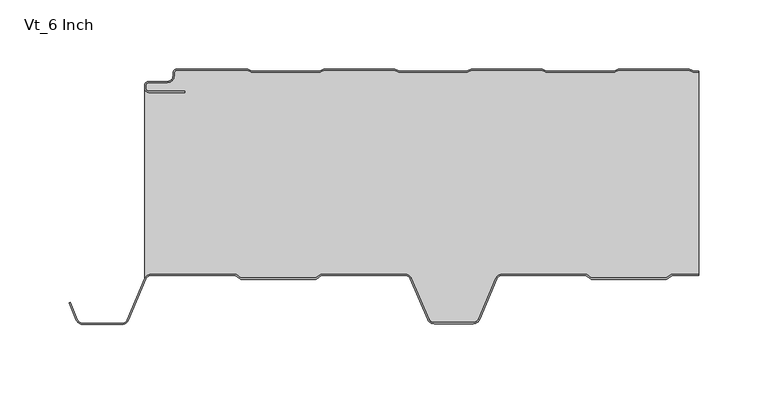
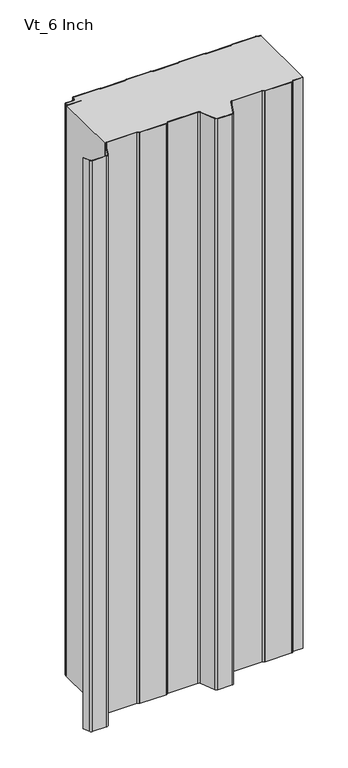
"""IFC4 building model written with IfcOpenShell, lengths in millimetres: plate geometry, AWIP_R18_CP_HR5_Vt_Roof Panel : Vt_6 Inch."""

from ifc_helpers import new_model, si_unit, point, frame, frame_2d, origin, origin_with_axes, place, context, project, spatial, polyline, circle_curve, trimmed, segment, composite_curve, outline, extrude, source, transform, mapped, element, save


def vt_6_inch_4dd7e068(model_context):
    return source(origin(), model_context, "Body", "SweptSolid", [
        extrude(outline(composite_curve([segment(polyline([(212.4037368, -1.5), (215.9042607, -1.5), (215.9042607, -2.3), (212.4037368, -2.3)]), True, "CONTINUOUS"), segment(trimmed(circle_curve(frame_2d((212.4037368, 1.0)), 3.3), [point((212.4037368, -2.3))], [point((211.0949824, -2.0293831))], False, "CARTESIAN"), True, "CONTINUOUS"), segment(polyline([(211.0949824, -2.0293831), (208.7048832, -0.9968123)]), True, "CONTINUOUS"), segment(trimmed(circle_curve(frame_2d((207.7530619, -3.2)), 2.4), [point((208.7048832, -0.9968123))], [point((207.7530619, -0.8))], True, "CARTESIAN"), True, "CONTINUOUS"), segment(polyline([(207.7530619, -0.8), (158.8384168, -0.8)]), True, "CONTINUOUS"), segment(trimmed(circle_curve(frame_2d((158.8384168, -3.2)), 2.4), [point((158.8384168, -0.8))], [point((157.8865954, -0.9968123))], True, "CARTESIAN"), True, "CONTINUOUS"), segment(polyline([(157.8865954, -0.9968123), (155.4964962, -2.0293831)]), True, "CONTINUOUS"), segment(trimmed(circle_curve(frame_2d((154.1877419, 1.0)), 3.3), [point((155.4964962, -2.0293831))], [point((154.1877419, -2.3))], False, "CARTESIAN"), True, "CONTINUOUS"), segment(polyline([(154.1877419, -2.3), (105.8037368, -2.3)]), True, "CONTINUOUS"), segment(trimmed(circle_curve(frame_2d((105.8037368, 1.0)), 3.3), [point((105.8037368, -2.3))], [point((104.4949824, -2.0293831))], False, "CARTESIAN"), True, "CONTINUOUS"), segment(polyline([(104.4949824, -2.0293831), (102.1048832, -0.9968123)]), True, "CONTINUOUS"), segment(trimmed(circle_curve(frame_2d((101.1530619, -3.2)), 2.4), [point((102.1048832, -0.9968123))], [point((101.1530619, -0.8))], True, "CARTESIAN"), True, "CONTINUOUS"), segment(polyline([(101.1530619, -0.8), (52.2384168, -0.8)]), True, "CONTINUOUS"), segment(trimmed(circle_curve(frame_2d((52.2384168, -3.2)), 2.4), [point((52.2384168, -0.8))], [point((51.2865954, -0.9968123))], True, "CARTESIAN"), True, "CONTINUOUS"), segment(polyline([(51.2865954, -0.9968123), (48.8964962, -2.0293831)]), True, "CONTINUOUS"), segment(trimmed(circle_curve(frame_2d((47.5877419, 1.0)), 3.3), [point((48.8964962, -2.0293831))], [point((47.5877419, -2.3))], False, "CARTESIAN"), True, "CONTINUOUS"), segment(polyline([(47.5877419, -2.3), (-0.7962632, -2.3)]), True, "CONTINUOUS"), segment(trimmed(circle_curve(frame_2d((-0.7962632, 1.0)), 3.3), [point((-0.7962632, -2.3))], [point((-2.1050176, -2.0293831))], False, "CARTESIAN"), True, "CONTINUOUS"), segment(polyline([(-2.1050176, -2.0293831), (-4.4951168, -0.9968123)]), True, "CONTINUOUS"), segment(trimmed(circle_curve(frame_2d((-5.4469381, -3.2)), 2.4), [point((-4.4951168, -0.9968123))], [point((-5.4469381, -0.8))], True, "CARTESIAN"), True, "CONTINUOUS"), segment(polyline([(-5.4469381, -0.8), (-54.3615832, -0.8)]), True, "CONTINUOUS"), segment(trimmed(circle_curve(frame_2d((-54.3615832, -3.2)), 2.4), [point((-54.3615832, -0.8))], [point((-55.3134046, -0.9968123))], True, "CARTESIAN"), True, "CONTINUOUS"), segment(polyline([(-55.3134046, -0.9968123), (-57.7035038, -2.0293831)]), True, "CONTINUOUS"), segment(trimmed(circle_curve(frame_2d((-59.0122581, 1.0)), 3.3), [point((-57.7035038, -2.0293831))], [point((-59.0122581, -2.3))], False, "CARTESIAN"), True, "CONTINUOUS"), segment(polyline([(-59.0122581, -2.3), (-107.3962632, -2.3)]), True, "CONTINUOUS"), segment(trimmed(circle_curve(frame_2d((-107.3962632, 1.0)), 3.3), [point((-107.3962632, -2.3))], [point((-108.7050176, -2.0293831))], False, "CARTESIAN"), True, "CONTINUOUS"), segment(polyline([(-108.7050176, -2.0293831), (-111.0951168, -0.9968123)]), True, "CONTINUOUS"), segment(trimmed(circle_curve(frame_2d((-112.0469381, -3.2)), 2.4), [point((-111.0951168, -0.9968123))], [point((-112.0469381, -0.8))], True, "CARTESIAN"), True, "CONTINUOUS"), segment(polyline([(-112.0469381, -0.8), (-161.8042607, -0.8)]), True, "CONTINUOUS"), segment(trimmed(circle_curve(frame_2d((-161.8042607, -3.0)), 2.2), [point((-161.8042607, -0.8))], [point((-164.0042607, -3.0))], True, "CARTESIAN"), True, "CONTINUOUS"), segment(polyline([(-164.0042607, -3.0), (-164.0042607, -5.0)]), True, "CONTINUOUS"), segment(trimmed(circle_curve(frame_2d((-168.8042607, -5.0)), 4.8), [point((-164.0042607, -5.0))], [point((-168.8042607, -9.8))], False, "CARTESIAN"), True, "CONTINUOUS"), segment(polyline([(-168.8042607, -9.8), (-182.3200708, -9.8)]), True, "CONTINUOUS"), segment(trimmed(circle_curve(frame_2d((-182.3200708, -12.0)), 2.2), [point((-182.3200708, -9.8))], [point((-184.5200708, -12.0))], True, "CARTESIAN"), True, "CONTINUOUS"), segment(polyline([(-184.5200708, -12.0), (-184.5200708, -14.0)]), True, "CONTINUOUS"), segment(trimmed(circle_curve(frame_2d((-182.3200708, -14.0)), 2.2), [point((-184.5200708, -14.0))], [point((-182.3200708, -16.2))], True, "CARTESIAN"), True, "CONTINUOUS"), segment(polyline([(-182.3200708, -16.2), (-156.3790289, -16.2), (-156.3790289, -17.0), (-182.3200708, -17.0)]), True, "CONTINUOUS"), segment(trimmed(circle_curve(frame_2d((-182.3200708, -14.0)), 3.0), [point((-182.3200708, -17.0))], [point((-185.3200708, -14.0))], False, "CARTESIAN"), True, "CONTINUOUS"), segment(polyline([(-185.3200708, -14.0), (-185.3200708, -12.0)]), True, "CONTINUOUS"), segment(trimmed(circle_curve(frame_2d((-182.3200708, -12.0)), 3.0), [point((-185.3200708, -12.0))], [point((-182.3200708, -9.0))], False, "CARTESIAN"), True, "CONTINUOUS"), segment(polyline([(-182.3200708, -9.0), (-168.8042607, -9.0)]), True, "CONTINUOUS"), segment(trimmed(circle_curve(frame_2d((-168.8042607, -5.0)), 4.0), [point((-168.8042607, -9.0))], [point((-164.8042607, -5.0))], True, "CARTESIAN"), True, "CONTINUOUS"), segment(polyline([(-164.8042607, -5.0), (-164.8042607, -3.0)]), True, "CONTINUOUS"), segment(trimmed(circle_curve(frame_2d((-161.8042607, -3.0)), 3.0), [point((-164.8042607, -3.0))], [point((-161.8042607, 0.0))], False, "CARTESIAN"), True, "CONTINUOUS"), segment(polyline([(-161.8042607, 0.0), (-112.0469381, 0.0)]), True, "CONTINUOUS"), segment(trimmed(circle_curve(frame_2d((-112.0469381, -3.2)), 3.2), [point((-112.0469381, 0.0))], [point((-110.777843, -0.2624164))], False, "CARTESIAN"), True, "CONTINUOUS"), segment(polyline([(-110.777843, -0.2624164), (-108.3877438, -1.2949872)]), True, "CONTINUOUS"), segment(trimmed(circle_curve(frame_2d((-107.3962632, 1.0)), 2.5), [point((-108.3877438, -1.2949872))], [point((-107.3962632, -1.5))], True, "CARTESIAN"), True, "CONTINUOUS"), segment(polyline([(-107.3962632, -1.5), (-59.0122581, -1.5)]), True, "CONTINUOUS"), segment(trimmed(circle_curve(frame_2d((-59.0122581, 1.0)), 2.5), [point((-59.0122581, -1.5))], [point((-58.0207775, -1.2949872))], True, "CARTESIAN"), True, "CONTINUOUS"), segment(polyline([(-58.0207775, -1.2949872), (-55.6306783, -0.2624164)]), True, "CONTINUOUS"), segment(trimmed(circle_curve(frame_2d((-54.3615832, -3.2)), 3.2), [point((-55.6306783, -0.2624164))], [point((-54.3615832, 0.0))], False, "CARTESIAN"), True, "CONTINUOUS"), segment(polyline([(-54.3615832, 0.0), (-5.4469381, 0.0)]), True, "CONTINUOUS"), segment(trimmed(circle_curve(frame_2d((-5.4469381, -3.2)), 3.2), [point((-5.4469381, 0.0))], [point((-4.177843, -0.2624164))], False, "CARTESIAN"), True, "CONTINUOUS"), segment(polyline([(-4.177843, -0.2624164), (-1.7877438, -1.2949872)]), True, "CONTINUOUS"), segment(trimmed(circle_curve(frame_2d((-0.7962632, 1.0)), 2.5), [point((-1.7877438, -1.2949872))], [point((-0.7962632, -1.5))], True, "CARTESIAN"), True, "CONTINUOUS"), segment(polyline([(-0.7962632, -1.5), (47.5877419, -1.5)]), True, "CONTINUOUS"), segment(trimmed(circle_curve(frame_2d((47.5877419, 1.0)), 2.5), [point((47.5877419, -1.5))], [point((48.5792225, -1.2949872))], True, "CARTESIAN"), True, "CONTINUOUS"), segment(polyline([(48.5792225, -1.2949872), (50.9693217, -0.2624164)]), True, "CONTINUOUS"), segment(trimmed(circle_curve(frame_2d((52.2384168, -3.2)), 3.2), [point((50.9693217, -0.2624164))], [point((52.2384168, 0.0))], False, "CARTESIAN"), True, "CONTINUOUS"), segment(polyline([(52.2384168, 0.0), (101.1530619, 0.0)]), True, "CONTINUOUS"), segment(trimmed(circle_curve(frame_2d((101.1530619, -3.2)), 3.2), [point((101.1530619, 0.0))], [point((102.422157, -0.2624164))], False, "CARTESIAN"), True, "CONTINUOUS"), segment(polyline([(102.422157, -0.2624164), (104.8122562, -1.2949872)]), True, "CONTINUOUS"), segment(trimmed(circle_curve(frame_2d((105.8037368, 1.0)), 2.5), [point((104.8122562, -1.2949872))], [point((105.8037368, -1.5))], True, "CARTESIAN"), True, "CONTINUOUS"), segment(polyline([(105.8037368, -1.5), (154.1877419, -1.5)]), True, "CONTINUOUS"), segment(trimmed(circle_curve(frame_2d((154.1877419, 1.0)), 2.5), [point((154.1877419, -1.5))], [point((155.1792225, -1.2949872))], True, "CARTESIAN"), True, "CONTINUOUS"), segment(polyline([(155.1792225, -1.2949872), (157.5693217, -0.2624164)]), True, "CONTINUOUS"), segment(trimmed(circle_curve(frame_2d((158.8384168, -3.2)), 3.2), [point((157.5693217, -0.2624164))], [point((158.8384168, 0.0))], False, "CARTESIAN"), True, "CONTINUOUS"), segment(polyline([(158.8384168, 0.0), (207.7530619, 0.0)]), True, "CONTINUOUS"), segment(trimmed(circle_curve(frame_2d((207.7530619, -3.2)), 3.2), [point((207.7530619, 0.0))], [point((209.022157, -0.2624164))], False, "CARTESIAN"), True, "CONTINUOUS"), segment(polyline([(209.022157, -0.2624164), (211.4122562, -1.2949872)]), True, "CONTINUOUS"), segment(trimmed(circle_curve(frame_2d((212.4037368, 1.0)), 2.5), [point((211.4122562, -1.2949872))], [point((212.4037368, -1.5))], True, "CARTESIAN"), True, "CONTINUOUS")], self_intersect=False)), origin_with_axes(), (0.0, 0.0, 1.0), 1219.2),
        extrude(outline(composite_curve([segment(polyline([(196.5956965, -148.8158806), (215.9042607, -148.8158806), (215.9042607, -149.6158806), (196.4339534, -149.6158806), (192.9742585, -152.1158087)]), True, "CONTINUOUS"), segment(trimmed(circle_curve(frame_2d((192.0957318, -150.8999999)), 1.5), [point((192.9742585, -152.1158087))], [point((192.0957318, -152.3999999))], False, "CARTESIAN"), True, "CONTINUOUS"), segment(polyline([(192.0957318, -152.3999999), (138.3457318, -152.4000002)]), True, "CONTINUOUS"), segment(trimmed(circle_curve(frame_2d((138.3457318, -150.9000001)), 1.5000001), [point((138.3457318, -152.4000002))], [point((137.4672049, -152.1158088))], False, "CARTESIAN"), True, "CONTINUOUS"), segment(polyline([(137.4672049, -152.1158088), (134.00751, -149.6158803), (73.3496366, -149.6158803)]), True, "CONTINUOUS"), segment(trimmed(circle_curve(frame_2d((73.3496366, -153.6158808)), 4.0000005), [point((73.3496366, -149.6158803))], [point((69.6676059, -152.0529814))], True, "CARTESIAN"), True, "CONTINUOUS"), segment(polyline([(69.6676059, -152.0529814), (57.1388245, -181.5695044)]), True, "CONTINUOUS"), segment(trimmed(circle_curve(frame_2d((52.5362869, -179.6158803)), 5.0), [point((57.1388245, -181.5695044))], [point((52.5362869, -184.6158803))], False, "CARTESIAN"), True, "CONTINUOUS"), segment(polyline([(52.5362869, -184.6158803), (24.1551918, -184.6158803)]), True, "CONTINUOUS"), segment(trimmed(circle_curve(frame_2d((24.1551918, -179.6158803)), 5.0), [point((24.1551918, -184.6158803))], [point((19.5526541, -181.5695044))], False, "CARTESIAN"), True, "CONTINUOUS"), segment(polyline([(19.5526541, -181.5695044), (7.0238723, -152.0529813)]), True, "CONTINUOUS"), segment(trimmed(circle_curve(frame_2d((3.3418421, -153.6158806)), 4.0000001), [point((7.0238723, -152.0529813))], [point((3.3418421, -149.6158805))], True, "CARTESIAN"), True, "CONTINUOUS"), segment(polyline([(3.3418421, -149.6158805), (-57.3160273, -149.6158805), (-60.7757221, -152.1158086)]), True, "CONTINUOUS"), segment(trimmed(circle_curve(frame_2d((-61.6542488, -150.8999999)), 1.5), [point((-60.7757221, -152.1158086))], [point((-61.6552202, -152.3999996))], False, "CARTESIAN"), True, "CONTINUOUS"), segment(polyline([(-61.6552202, -152.3999996), (-115.4042488, -152.3999996)]), True, "CONTINUOUS"), segment(trimmed(circle_curve(frame_2d((-115.4042488, -150.8999996)), 1.5), [point((-115.4042488, -152.3999996))], [point((-116.2827756, -152.1158083))], False, "CARTESIAN"), True, "CONTINUOUS"), segment(polyline([(-116.2827756, -152.1158083), (-119.7424699, -149.6158804), (-180.6881301, -149.6158804)]), True, "CONTINUOUS"), segment(trimmed(circle_curve(frame_2d((-180.6881301, -153.6158804)), 4.0), [point((-180.6881301, -149.6158804))], [point((-184.3701602, -152.0529811))], True, "CARTESIAN"), True, "CONTINUOUS"), segment(polyline([(-184.3701602, -152.0529811), (-197.1111755, -182.0695045)]), True, "CONTINUOUS"), segment(trimmed(circle_curve(frame_2d((-201.7137131, -180.1158804)), 5.0), [point((-197.1111755, -182.0695045))], [point((-201.7137131, -185.1158804))], False, "CARTESIAN"), True, "CONTINUOUS"), segment(polyline([(-201.7137131, -185.1158804), (-230.0948052, -185.1158804)]), True, "CONTINUOUS"), segment(trimmed(circle_curve(frame_2d((-230.0948052, -180.1158804)), 5.0), [point((-230.0948052, -185.1158804))], [point((-234.6973445, -182.0695007))], False, "CARTESIAN"), True, "CONTINUOUS"), segment(polyline([(-234.6973445, -182.0695007), (-240.046569, -169.4672483), (-239.3095274, -169.1561658), (-233.9609382, -181.7569214)]), True, "CONTINUOUS"), segment(trimmed(circle_curve(frame_2d((-230.0948052, -180.1158804)), 4.2), [point((-233.9609382, -181.7569214))], [point((-230.0948052, -184.3158804))], True, "CARTESIAN"), True, "CONTINUOUS"), segment(polyline([(-230.0948052, -184.3158804), (-201.7137131, -184.3158804)]), True, "CONTINUOUS"), segment(trimmed(circle_curve(frame_2d((-201.7137131, -180.1158804)), 4.2), [point((-201.7137131, -184.3158804))], [point((-197.8475815, -181.7569246))], True, "CARTESIAN"), True, "CONTINUOUS"), segment(polyline([(-197.8475815, -181.7569246), (-185.1065662, -151.7404013)]), True, "CONTINUOUS"), segment(trimmed(circle_curve(frame_2d((-180.6881301, -153.6158804)), 4.8), [point((-185.1065662, -151.7404013))], [point((-180.6881301, -148.8158804))], False, "CARTESIAN"), True, "CONTINUOUS"), segment(polyline([(-180.6881301, -148.8158804), (-119.9042132, -148.8158804)]), True, "CONTINUOUS"), segment(trimmed(circle_curve(frame_2d((-119.9042132, -150.1158804)), 1.3), [point((-119.9042132, -148.8158804))], [point((-119.1428234, -149.0621795))], False, "CARTESIAN"), True, "CONTINUOUS"), segment(polyline([(-119.1428234, -149.0621795), (-115.6306887, -151.5999999), (-61.4278085, -151.5999999), (-57.915674, -149.0621796)]), True, "CONTINUOUS"), segment(trimmed(circle_curve(frame_2d((-57.1542841, -150.1158805)), 1.3), [point((-57.915674, -149.0621796))], [point((-57.1542841, -148.8158805))], False, "CARTESIAN"), True, "CONTINUOUS"), segment(polyline([(-57.1542841, -148.8158805), (3.3418421, -148.8158805)]), True, "CONTINUOUS"), segment(trimmed(circle_curve(frame_2d((3.3418421, -153.6158806)), 4.8000001), [point((3.3418421, -148.8158805))], [point((7.7602783, -151.7404014))], False, "CARTESIAN"), True, "CONTINUOUS"), segment(polyline([(7.7602783, -151.7404014), (20.2890602, -181.2569246)]), True, "CONTINUOUS"), segment(trimmed(circle_curve(frame_2d((24.1551918, -179.6158803)), 4.2), [point((20.2890602, -181.2569246))], [point((24.1551918, -183.8158803))], True, "CARTESIAN"), True, "CONTINUOUS"), segment(polyline([(24.1551918, -183.8158803), (52.5362869, -183.8158803)]), True, "CONTINUOUS"), segment(trimmed(circle_curve(frame_2d((52.5362869, -179.6158803)), 4.2), [point((52.5362869, -183.8158803))], [point((56.4024185, -181.2569246))], True, "CARTESIAN"), True, "CONTINUOUS"), segment(polyline([(56.4024185, -181.2569246), (68.9312002, -151.7404017)]), True, "CONTINUOUS"), segment(trimmed(circle_curve(frame_2d((73.3496366, -153.6158808)), 4.8000002), [point((68.9312002, -151.7404017))], [point((73.3496366, -148.8158806))], False, "CARTESIAN"), True, "CONTINUOUS"), segment(polyline([(73.3496366, -148.8158806), (133.8457671, -148.8158806)]), True, "CONTINUOUS"), segment(trimmed(circle_curve(frame_2d((133.8457671, -150.1158806)), 1.3), [point((133.8457671, -148.8158806))], [point((134.607157, -149.0621798))], False, "CARTESIAN"), True, "CONTINUOUS"), segment(polyline([(134.607157, -149.0621798), (138.119291, -151.5999999), (192.3221722, -151.5999999), (195.8343063, -149.0621799)]), True, "CONTINUOUS"), segment(trimmed(circle_curve(frame_2d((196.5956965, -150.1158813)), 1.3000007), [point((195.8343063, -149.0621799))], [point((196.5956965, -148.8158806))], False, "CARTESIAN"), True, "CONTINUOUS")], self_intersect=False)), origin_with_axes(), (0.0, 0.0, 1.0), 1219.2),
        extrude(outline(composite_curve([segment(trimmed(circle_curve(frame_2d((-179.5851335, 52.1967135)), 4.2), [point((-183.7851335, 52.1967135))], [point((-181.2261778, 56.0628451))], False, "CARTESIAN"), True, "CONTINUOUS"), segment(polyline([(-181.2261778, 56.0628451), (-151.7404017, 68.5785758)]), True, "CONTINUOUS"), segment(trimmed(circle_curve(frame_2d((-153.6158809, 72.9970122)), 4.8000002), [point((-151.7404017, 68.5785758))], [point((-148.8158807, 72.9970122))], True, "CARTESIAN"), True, "CONTINUOUS"), segment(polyline([(-148.8158807, 72.9970122), (-148.8158807, 133.8457671)]), True, "CONTINUOUS"), segment(trimmed(circle_curve(frame_2d((-150.1158807, 133.8457671)), 1.3), [point((-148.8158807, 133.8457671))], [point((-149.0621798, 134.607157))], True, "CARTESIAN"), True, "CONTINUOUS"), segment(polyline([(-149.0621798, 134.607157), (-151.6, 138.119291), (-151.6, 192.3221722), (-149.0621799, 195.8343063)]), True, "CONTINUOUS"), segment(trimmed(circle_curve(frame_2d((-150.1158814, 196.5956965)), 1.3000007), [point((-149.0621799, 195.8343063))], [point((-148.8158807, 196.5956965))], True, "CARTESIAN"), True, "CONTINUOUS"), segment(polyline([(-148.8158807, 196.5956965), (-148.8158807, 215.9042607), (-2.3, 215.9042607), (-2.3, 212.3867902)]), True, "CONTINUOUS"), segment(trimmed(circle_curve(frame_2d((1.0, 212.3867902)), 3.3), [point((-2.3, 212.3867902))], [point((-2.0293831, 211.0780359))], True, "CARTESIAN"), True, "CONTINUOUS"), segment(polyline([(-2.0293831, 211.0780359), (-0.9968123, 208.6879367)]), True, "CONTINUOUS"), segment(trimmed(circle_curve(frame_2d((-3.2, 207.7361153)), 2.4), [point((-0.9968123, 208.6879367))], [point((-0.8, 207.7361153))], False, "CARTESIAN"), True, "CONTINUOUS"), segment(polyline([(-0.8, 207.7361153), (-0.8, 158.8214702)]), True, "CONTINUOUS"), segment(trimmed(circle_curve(frame_2d((-3.2, 158.8214702)), 2.4), [point((-0.8, 158.8214702))], [point((-0.9968123, 157.8696489))], False, "CARTESIAN"), True, "CONTINUOUS"), segment(polyline([(-0.9968123, 157.8696489), (-2.0293831, 155.4795497)]), True, "CONTINUOUS"), segment(trimmed(circle_curve(frame_2d((1.0, 154.1707953)), 3.3), [point((-2.0293831, 155.4795497))], [point((-2.3, 154.1707953))], True, "CARTESIAN"), True, "CONTINUOUS"), segment(polyline([(-2.3, 154.1707953), (-2.3, 105.7867902)]), True, "CONTINUOUS"), segment(trimmed(circle_curve(frame_2d((1.0, 105.7867902)), 3.3), [point((-2.3, 105.7867902))], [point((-2.0293831, 104.4780359))], True, "CARTESIAN"), True, "CONTINUOUS"), segment(polyline([(-2.0293831, 104.4780359), (-0.9968123, 102.0879367)]), True, "CONTINUOUS"), segment(trimmed(circle_curve(frame_2d((-3.2, 101.1361153)), 2.4), [point((-0.9968123, 102.0879367))], [point((-0.8, 101.1361153))], False, "CARTESIAN"), True, "CONTINUOUS"), segment(polyline([(-0.8, 101.1361153), (-0.8, 52.2214702)]), True, "CONTINUOUS"), segment(trimmed(circle_curve(frame_2d((-3.2, 52.2214702)), 2.4), [point((-0.8, 52.2214702))], [point((-0.9968123, 51.2696489))], False, "CARTESIAN"), True, "CONTINUOUS"), segment(polyline([(-0.9968123, 51.2696489), (-2.0293831, 48.8795497)]), True, "CONTINUOUS"), segment(trimmed(circle_curve(frame_2d((1.0, 47.5707953)), 3.3), [point((-2.0293831, 48.8795497))], [point((-2.3, 47.5707953))], True, "CARTESIAN"), True, "CONTINUOUS"), segment(polyline([(-2.3, 47.5707953), (-2.3, -0.8132098)]), True, "CONTINUOUS"), segment(trimmed(circle_curve(frame_2d((1.0, -0.8132098)), 3.3), [point((-2.3, -0.8132098))], [point((-2.0293831, -2.1219641))], True, "CARTESIAN"), True, "CONTINUOUS"), segment(polyline([(-2.0293831, -2.1219641), (-0.9968123, -4.5120633)]), True, "CONTINUOUS"), segment(trimmed(circle_curve(frame_2d((-3.2, -5.4638847)), 2.4), [point((-0.9968123, -4.5120633))], [point((-0.8, -5.4638847))], False, "CARTESIAN"), True, "CONTINUOUS"), segment(polyline([(-0.8, -5.4638847), (-0.8, -54.3785298)]), True, "CONTINUOUS"), segment(trimmed(circle_curve(frame_2d((-3.2, -54.3785298)), 2.4), [point((-0.8, -54.3785298))], [point((-0.9968123, -55.3303511))], False, "CARTESIAN"), True, "CONTINUOUS"), segment(polyline([(-0.9968123, -55.3303511), (-2.0293831, -57.7204503)]), True, "CONTINUOUS"), segment(trimmed(circle_curve(frame_2d((1.0, -59.0292047)), 3.3), [point((-2.0293831, -57.7204503))], [point((-2.3, -59.0292047))], True, "CARTESIAN"), True, "CONTINUOUS"), segment(polyline([(-2.3, -59.0292047), (-2.3, -107.4132098)]), True, "CONTINUOUS"), segment(trimmed(circle_curve(frame_2d((1.0, -107.4132098)), 3.3), [point((-2.3, -107.4132098))], [point((-2.0293831, -108.7219641))], True, "CARTESIAN"), True, "CONTINUOUS"), segment(polyline([(-2.0293831, -108.7219641), (-0.9968123, -111.1120633)]), True, "CONTINUOUS"), segment(trimmed(circle_curve(frame_2d((-3.2, -112.0638847)), 2.4), [point((-0.9968123, -111.1120633))], [point((-0.8, -112.0638847))], False, "CARTESIAN"), True, "CONTINUOUS"), segment(polyline([(-0.8, -112.0638847), (-0.8, -161.8212072)]), True, "CONTINUOUS"), segment(trimmed(circle_curve(frame_2d((-3.0, -161.8212072)), 2.2), [point((-0.8, -161.8212072))], [point((-3.0, -164.0212072))], False, "CARTESIAN"), True, "CONTINUOUS"), segment(polyline([(-3.0, -164.0212072), (-5.0, -164.0212072)]), True, "CONTINUOUS"), segment(trimmed(circle_curve(frame_2d((-5.0, -168.8212072)), 4.8), [point((-5.0, -164.0212072))], [point((-9.8, -168.8212072))], True, "CARTESIAN"), True, "CONTINUOUS"), segment(polyline([(-9.8, -168.8212072), (-9.8, -182.3370174)]), True, "CONTINUOUS"), segment(trimmed(circle_curve(frame_2d((-12.0, -182.3370174)), 2.2), [point((-9.8, -182.3370174))], [point((-12.0, -184.5370174))], False, "CARTESIAN"), True, "CONTINUOUS"), segment(polyline([(-12.0, -184.5370174), (-14.0, -184.5370174)]), True, "CONTINUOUS"), segment(trimmed(circle_curve(frame_2d((-14.0, -182.3370174)), 2.2), [point((-14.0, -184.5370174))], [point((-16.2, -182.3370174))], False, "CARTESIAN"), True, "CONTINUOUS"), segment(polyline([(-16.2, -182.3370174), (-16.2, -156.3959754), (-17.0, -156.3959754), (-17.0, -182.3370174)]), True, "CONTINUOUS"), segment(trimmed(circle_curve(frame_2d((-14.0, -182.3370174)), 3.0), [point((-17.0, -182.3370174))], [point((-14.0, -185.3370174))], True, "CARTESIAN"), True, "CONTINUOUS"), segment(polyline([(-14.0, -185.3370174), (-152.420955, -185.3370174)]), True, "CONTINUOUS"), segment(trimmed(circle_curve(frame_2d((-153.6158805, -180.6881301)), 4.8), [point((-152.420955, -185.3370174))], [point((-148.8158805, -180.6881301))], True, "CARTESIAN"), True, "CONTINUOUS"), segment(polyline([(-148.8158805, -180.6881301), (-148.8158805, -119.9042132)]), True, "CONTINUOUS"), segment(trimmed(circle_curve(frame_2d((-150.1158805, -119.9042132)), 1.3), [point((-148.8158805, -119.9042132))], [point((-149.0621796, -119.1428234))], True, "CARTESIAN"), True, "CONTINUOUS"), segment(polyline([(-149.0621796, -119.1428234), (-151.6, -115.6306887), (-151.6, -61.4278085), (-149.0621797, -57.915674)]), True, "CONTINUOUS"), segment(trimmed(circle_curve(frame_2d((-150.1158805, -57.1542841)), 1.3), [point((-149.0621797, -57.915674))], [point((-148.8158805, -57.1542841))], True, "CARTESIAN"), True, "CONTINUOUS"), segment(polyline([(-148.8158805, -57.1542841), (-148.8158805, 3.6944665)]), True, "CONTINUOUS"), segment(trimmed(circle_curve(frame_2d((-153.6158806, 3.6944665)), 4.8000001), [point((-148.8158805, 3.6944665))], [point((-151.7404015, 8.1129027))], True, "CARTESIAN"), True, "CONTINUOUS"), segment(polyline([(-151.7404015, 8.1129027), (-181.2261778, 20.6286335)]), True, "CONTINUOUS"), segment(trimmed(circle_curve(frame_2d((-179.5851335, 24.4947652)), 4.2), [point((-181.2261778, 20.6286335))], [point((-183.7851335, 24.4947652))], False, "CARTESIAN"), True, "CONTINUOUS"), segment(polyline([(-183.7851335, 24.4947652), (-183.7851335, 52.1967135)]), True, "CONTINUOUS")], self_intersect=False)), frame((0.0, 0.0, 1219.2), z_axis=(0.0, 0.0, -1.0), x_axis=(0.0, 1.0, 0.0)), (0.0, 0.0, 1.0), 1219.2),
    ])


if __name__ == "__main__":
    model = new_model("IFC4")
    model_context = context("Model", 3, world=origin())
    ifc_project = project(units=[si_unit("LENGTHUNIT", "METRE", prefix="MILLI")], contexts=[model_context])
    site = spatial("IfcSite", under=ifc_project)
    building = spatial("IfcBuilding", under=site)
    placement = place(None, origin())
    vt_6_inch_shape = vt_6_inch_4dd7e068(model_context)
    element("IfcPlate", 1, ObjectType="AWIP_R18_CP_HR5_Vt_Roof Panel : Vt_6 Inch", at=placement, inside=building, context=model_context, shape_type="MappedRepresentation", body=[
        mapped(vt_6_inch_shape, transform((0.0, 0.0, 0.0), x_axis=(1.0, 0.0, 0.0), y_axis=(0.0, 1.0, 0.0), z_axis=(0.0, 0.0, 1.0))),
    ])
    save(model, "model.ifc")
